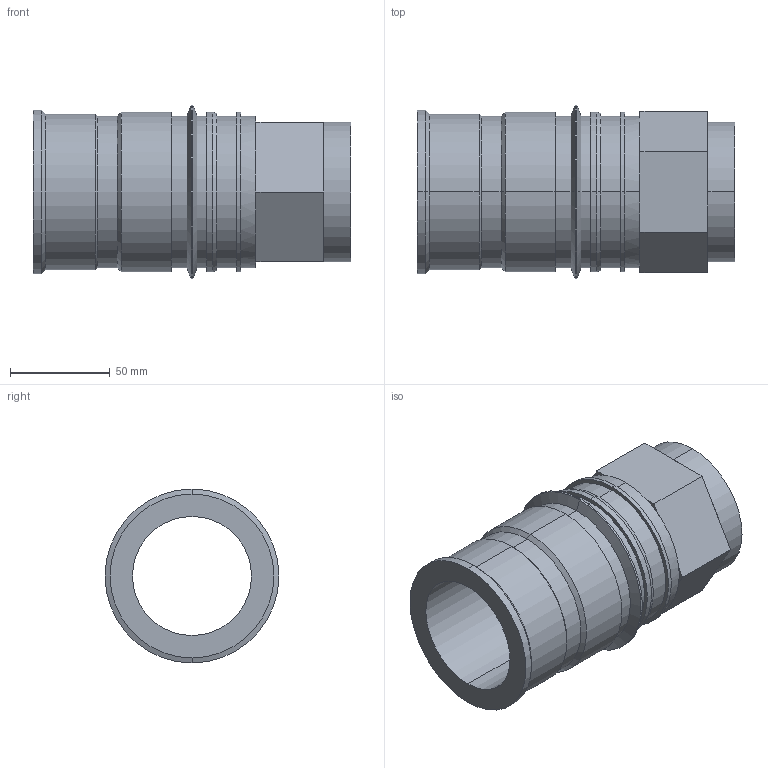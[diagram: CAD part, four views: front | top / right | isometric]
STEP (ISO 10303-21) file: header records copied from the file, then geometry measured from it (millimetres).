
FILE_DESCRIPTION (( 'STEP AP214' ), '1' );
FILE_NAME ('BR601.38 DGB 60.STEP', '2020-12-02T13:18:22', ( '' ), ( '' ), 'SwSTEP 2.0', 'SolidWorks 2018', '' );
FILE_SCHEMA (( 'AUTOMOTIVE_DESIGN' ));
Length unit declared in the file: millimetre
Products named in the file (1): BR601.38 DGB 60
Bounding box: 159 x 86.99 x 86.99 mm (x, y, z)
Volume: 288734.1 mm3; surface area: 77531.4 mm2
Topology: 1 solids, 1 shells, 69 faces, 144 edges, 82 vertices
Faces by surface type: plane 31, cylinder 26, cone 12
Entity records: 1850 total; most frequent: DIRECTION 354, CARTESIAN_POINT 296, ORIENTED_EDGE 288, EDGE_CURVE 144, AXIS2_PLACEMENT_3D 140, VERTEX_POINT 82, EDGE_LOOP 76, LINE 74
